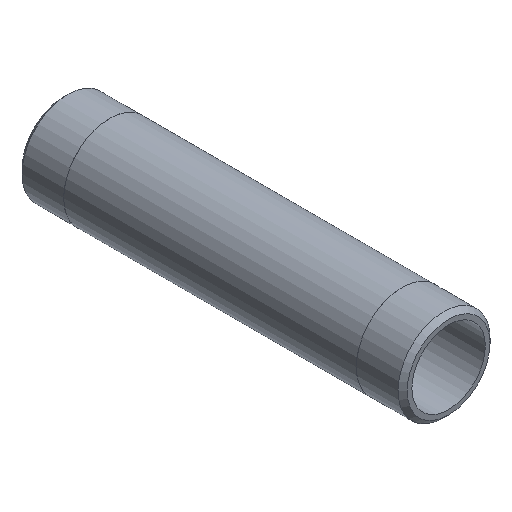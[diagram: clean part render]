
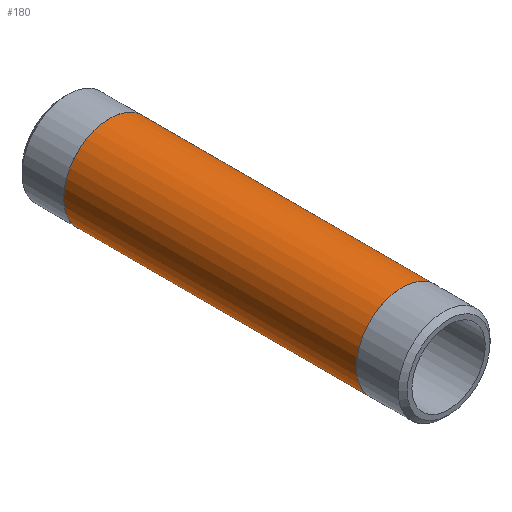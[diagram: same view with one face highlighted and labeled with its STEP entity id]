
A CAD part, isometric view. The second image highlights one B-rep face of the part: STEP entity #180.
In plain terms, the highlighted cylindrical face has radius 16.701 mm (diameter 33.401 mm), a full revolution.
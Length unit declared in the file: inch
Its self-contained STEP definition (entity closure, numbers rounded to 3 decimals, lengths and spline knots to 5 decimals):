
#25=CYLINDRICAL_SURFACE('',#220,0.6575);
#34=FACE_OUTER_BOUND('',#47,.T.);
#47=EDGE_LOOP('',(#155,#156,#157,#158,#159,#160));
#55=LINE('',#338,#61);
#61=VECTOR('',#283,0.6575);
#77=CIRCLE('',#218,0.6575);
#78=CIRCLE('',#219,0.6575);
#79=CIRCLE('',#221,0.6575);
#80=CIRCLE('',#222,0.6575);
#95=VERTEX_POINT('',#329);
#96=VERTEX_POINT('',#330);
#97=VERTEX_POINT('',#334);
#98=VERTEX_POINT('',#335);
#117=EDGE_CURVE('',#95,#96,#77,.T.);
#118=EDGE_CURVE('',#96,#95,#78,.T.);
#119=EDGE_CURVE('',#97,#98,#79,.T.);
#120=EDGE_CURVE('',#98,#97,#80,.T.);
#121=EDGE_CURVE('',#98,#96,#55,.T.);
#155=ORIENTED_EDGE('',*,*,#119,.F.);
#156=ORIENTED_EDGE('',*,*,#120,.F.);
#157=ORIENTED_EDGE('',*,*,#121,.T.);
#158=ORIENTED_EDGE('',*,*,#118,.T.);
#159=ORIENTED_EDGE('',*,*,#117,.T.);
#160=ORIENTED_EDGE('',*,*,#121,.F.);
#180=ADVANCED_FACE('',(#34),#25,.T.);
#218=AXIS2_PLACEMENT_3D('',#331,#273,#274);
#219=AXIS2_PLACEMENT_3D('',#332,#275,#276);
#220=AXIS2_PLACEMENT_3D('',#333,#277,#278);
#221=AXIS2_PLACEMENT_3D('',#336,#279,#280);
#222=AXIS2_PLACEMENT_3D('',#337,#281,#282);
#273=DIRECTION('center_axis',(0.,-1.,0.));
#274=DIRECTION('ref_axis',(1.,0.,0.));
#275=DIRECTION('center_axis',(0.,-1.,0.));
#276=DIRECTION('ref_axis',(1.,0.,0.));
#277=DIRECTION('center_axis',(0.,-1.,0.));
#278=DIRECTION('ref_axis',(0.,0.,-1.));
#279=DIRECTION('center_axis',(0.,-1.,0.));
#280=DIRECTION('ref_axis',(1.,0.,0.));
#281=DIRECTION('center_axis',(0.,-1.,0.));
#282=DIRECTION('ref_axis',(1.,0.,0.));
#283=DIRECTION('',(0.,1.,0.));
#329=CARTESIAN_POINT('',(0.,4.839,-0.6575));
#330=CARTESIAN_POINT('',(0.,4.839,0.6575));
#331=CARTESIAN_POINT('Origin',(0.,4.839,0.));
#332=CARTESIAN_POINT('Origin',(0.,4.839,0.));
#333=CARTESIAN_POINT('Origin',(0.,2.75,0.));
#334=CARTESIAN_POINT('',(0.,0.661,-0.6575));
#335=CARTESIAN_POINT('',(0.,0.661,0.6575));
#336=CARTESIAN_POINT('Origin',(0.,0.661,0.));
#337=CARTESIAN_POINT('Origin',(0.,0.661,0.));
#338=CARTESIAN_POINT('',(0.,2.75,0.6575));
